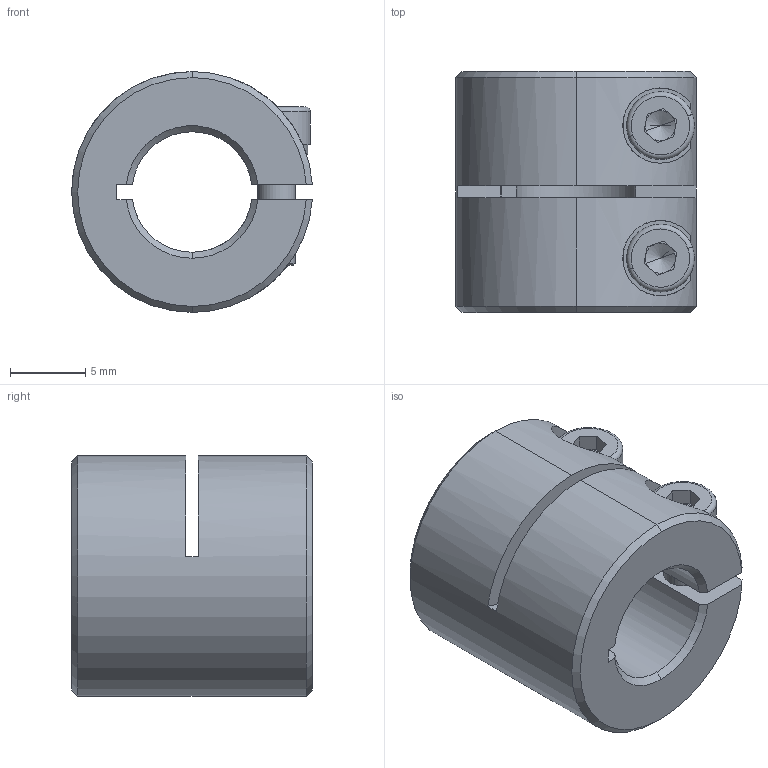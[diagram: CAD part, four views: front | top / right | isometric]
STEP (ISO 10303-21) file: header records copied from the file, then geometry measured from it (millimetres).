
FILE_DESCRIPTION (( 'STEP AP203' ), '1' );
FILE_NAME ('LL-B-D16L16-8-8.STEP', '2021-11-03T02:54:14', ( '' ), ( '' ), 'SwSTEP 2.0', 'SolidWorks 2018', '' );
FILE_SCHEMA (( 'CONFIG_CONTROL_DESIGN' ));
Length unit declared in the file: millimetre
Products named in the file (1): LL-B-D16L16-8-8
Bounding box: 15.98 x 16 x 16 mm (x, y, z)
Volume: 2231.3 mm3; surface area: 1976.7 mm2
Topology: 1 solids, 1 shells, 116 faces, 305 edges, 191 vertices
Faces by surface type: plane 50, cylinder 42, cone 20, torus 4
Entity records: 3845 total; most frequent: CARTESIAN_POINT 867, DIRECTION 630, ORIENTED_EDGE 602, EDGE_CURVE 301, AXIS2_PLACEMENT_3D 246, VERTEX_POINT 191, LINE 138, VECTOR 138
